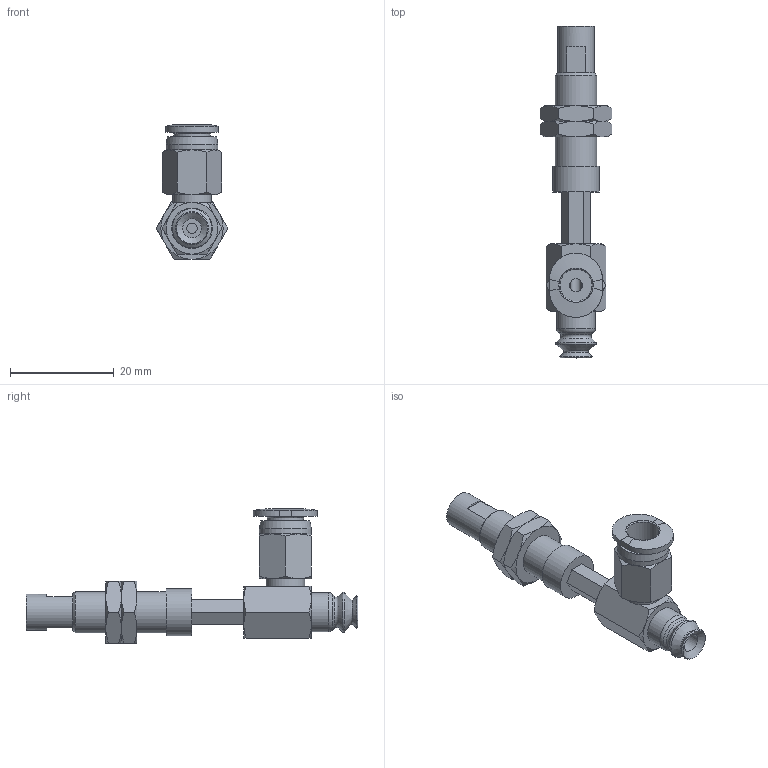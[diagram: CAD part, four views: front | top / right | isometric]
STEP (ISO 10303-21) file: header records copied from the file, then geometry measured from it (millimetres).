
FILE_DESCRIPTION(('STEP AP203'),'1');
FILE_NAME('-O.stp','2025-04-24T05:31:11',(' '),(' '),'Spatial InterOp 3D',' ',' ');
FILE_SCHEMA(('CONFIG_CONTROL_DESIGN'));
Length unit declared in the file: millimetre
Products named in the file (7): BNABPJYH-6-10-※-O; CONNECTOR_H-6-10; NAPJH-6-10-NUT; NAPJTH-6-10-FBODY; NAPJTH-6-10-MBODY; BPJG-6-※; PC-C_06-M5
Assembly tree (7 placements, depth 2):
  BNABPJYH-6-10-※-O
    CONNECTOR_H-6-10
    NAPJH-6-10-NUT  x2
    NAPJTH-6-10-FBODY
    NAPJTH-6-10-MBODY
    BPJG-6-※
    PC-C_06-M5
Bounding box: 13.86 x 64 x 25.98 mm (x, y, z)
Volume: 3402.5 mm3; surface area: 5269 mm2
Topology: 6 solids, 9 shells, 192 faces, 413 edges, 251 vertices
Faces by surface type: plane 78, cone 70, cylinder 24, torus 13, bspline 4, revolution 3
Full cylindrical faces by diameter (mm): 2 x1, 3.64 x1, 4 x4, 4.134 x2, 5 x2, 6 x2, 7 x2, 7.188 x2, 7.4 x1, 7.5 x1, 8 x1, 8.2 x1, 9 x1, 10 x1
Entity records: 4996 total; most frequent: CARTESIAN_POINT 1380, DIRECTION 673, ORIENTED_EDGE 590, EDGE_CURVE 297, AXIS2_PLACEMENT_3D 288, EDGE_LOOP 248, VERTEX_POINT 209, FACE_OUTER_BOUND 143
